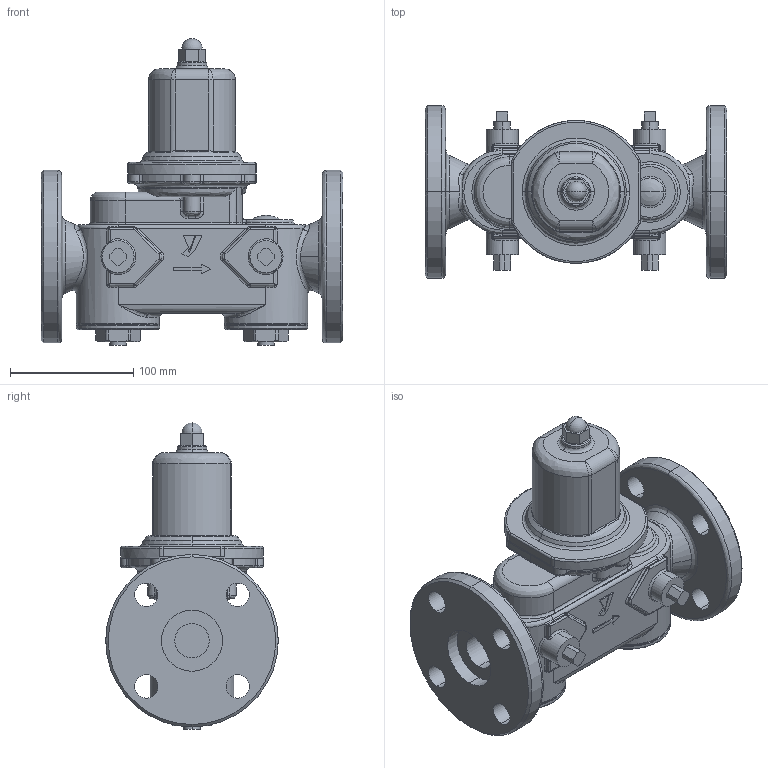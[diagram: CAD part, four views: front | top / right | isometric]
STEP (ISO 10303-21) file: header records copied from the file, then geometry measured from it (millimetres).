
FILE_DESCRIPTION( (''), '2;1');
FILE_NAME ('PC1028.13208.GD-27BP 40A_32165.stp','2024-12-18T14:21:16',(''),(''),'spGate 20.6.3 (****-****-****-****)','','');
FILE_SCHEMA (('AUTOMOTIVE_DESIGN'));
Length unit declared in the file: millimetre
Bounding box: 245 x 140 x 249 mm (x, y, z)
Volume: 2193727.9 mm3; surface area: 194149.9 mm2
Topology: 1 solids, 1 shells, 588 faces, 1418 edges, 829 vertices
Faces by surface type: cylinder 211, bspline 205, plane 157, sphere 15
Entity records: 35133 total; most frequent: CARTESIAN_POINT 11216, ORIENTED_EDGE 2774, DIRECTION 2479, COLOUR_RGB 1976, PRESENTATION_STYLE_ASSIGNMENT 1976, STYLED_ITEM 1976, EDGE_CURVE 1387, DRAUGHTING_PRE_DEFINED_CURVE_FONT 1387
